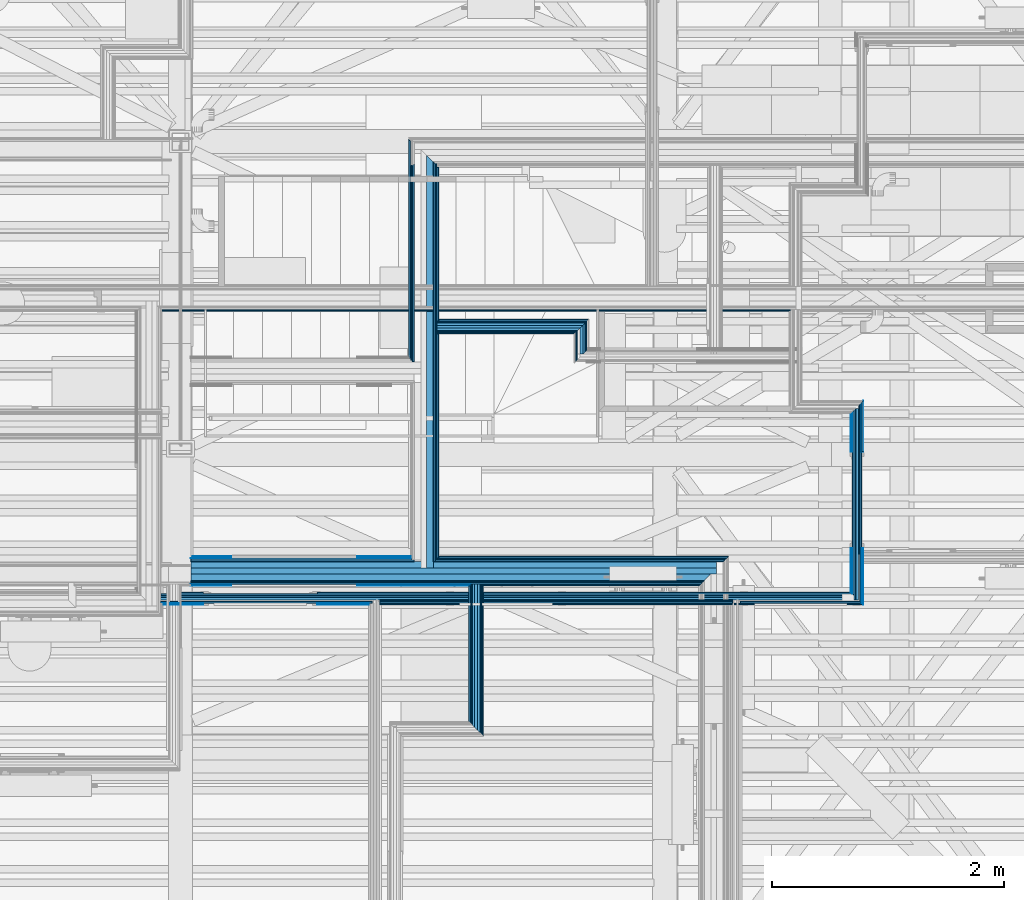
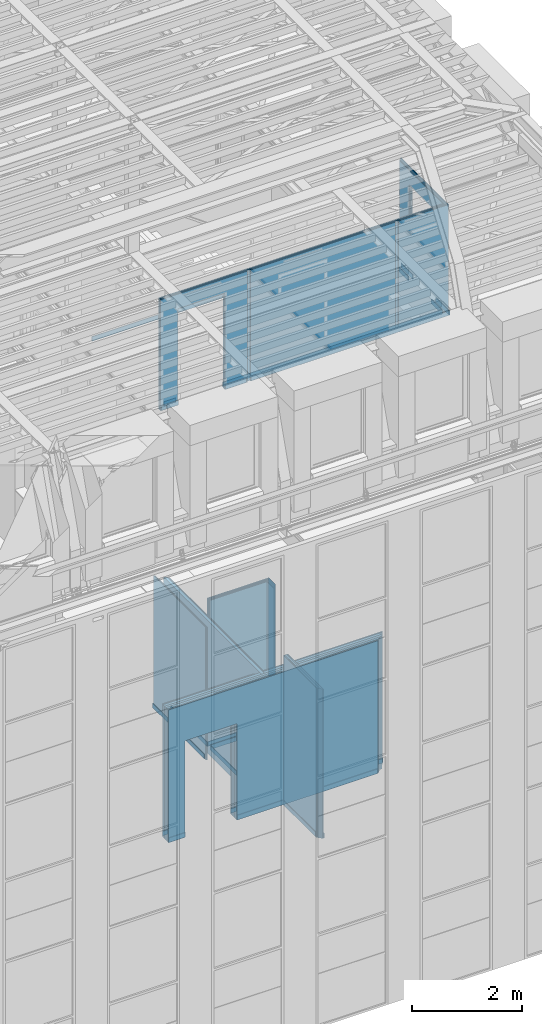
# One storey, part 53 of 183: 62 building element parts, 4 openings, 8 elements without a shape of their own.
"""IFC2X3 building model written with IfcOpenShell, lengths in metres."""

from ifc_helpers import new_model, entity, si_unit, converted_unit, derived_unit, money_unit, direction, frame, frame_2d, origin_with_axes, place, context, subcontext, project, spatial, polyline, rectangle, outline, extrude, material, type_object, element, aggregate, save


model = new_model("IFC2X3")

# Units and contexts
model_context = context("Model", 3, precision=1e-05, world=origin_with_axes(), true_north=direction((0.0, 1.0)))
body_context = subcontext(model_context, "Body", "Model", "MODEL_VIEW", scale=1.0)
ifc_project = project(units=[si_unit("LENGTHUNIT", "METRE"), si_unit("AREAUNIT", "SQUARE_METRE"), si_unit("VOLUMEUNIT", "CUBIC_METRE"), si_unit("ABSORBEDDOSEUNIT", "GRAY"), si_unit("AMOUNTOFSUBSTANCEUNIT", "MOLE"), si_unit("DOSEEQUIVALENTUNIT", "SIEVERT"), si_unit("ELECTRICCAPACITANCEUNIT", "FARAD"), si_unit("ELECTRICCHARGEUNIT", "COULOMB"), si_unit("ELECTRICCONDUCTANCEUNIT", "SIEMENS"), si_unit("ELECTRICCURRENTUNIT", "AMPERE"), si_unit("ELECTRICRESISTANCEUNIT", "OHM"), si_unit("ELECTRICVOLTAGEUNIT", "VOLT"), si_unit("ENERGYUNIT", "JOULE"), si_unit("FORCEUNIT", "NEWTON"), si_unit("FREQUENCYUNIT", "HERTZ"), si_unit("ILLUMINANCEUNIT", "LUX"), si_unit("INDUCTANCEUNIT", "HENRY"), si_unit("LUMINOUSFLUXUNIT", "LUMEN"), si_unit("LUMINOUSINTENSITYUNIT", "CANDELA"), si_unit("MAGNETICFLUXDENSITYUNIT", "TESLA"), si_unit("MAGNETICFLUXUNIT", "WEBER"), si_unit("MASSUNIT", "GRAM"), converted_unit("PLANEANGLEUNIT", "degree", entity("IfcReal", 0.0174532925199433), si_unit("PLANEANGLEUNIT", "RADIAN"), dimensions=[0, 0, 0, 0, 0, 0, 0]), si_unit("POWERUNIT", "WATT"), si_unit("PRESSUREUNIT", "PASCAL"), si_unit("RADIOACTIVITYUNIT", "BECQUEREL"), si_unit("SOLIDANGLEUNIT", "STERADIAN"), si_unit("THERMODYNAMICTEMPERATUREUNIT", "KELVIN"), si_unit("TIMEUNIT", "SECOND"), derived_unit("ACCELERATIONUNIT", [(si_unit("LENGTHUNIT", "METRE"), 1), (si_unit("TIMEUNIT", "SECOND"), -2)]), derived_unit("ANGULARVELOCITYUNIT", [(converted_unit("PLANEANGLEUNIT", "degree", entity("IfcReal", 0.0174532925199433), si_unit("PLANEANGLEUNIT", "RADIAN"), dimensions=[0, 0, 0, 0, 0, 0, 0]), 1), (si_unit("TIMEUNIT", "SECOND"), -1)]), derived_unit("CURVATUREUNIT", [(converted_unit("PLANEANGLEUNIT", "degree", entity("IfcReal", 0.0174532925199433), si_unit("PLANEANGLEUNIT", "RADIAN"), dimensions=[0, 0, 0, 0, 0, 0, 0]), 1), (si_unit("LENGTHUNIT", "METRE"), -1)]), derived_unit("DYNAMICVISCOSITYUNIT", [(si_unit("PRESSUREUNIT", "PASCAL"), 1), (si_unit("TIMEUNIT", "SECOND"), 1)]), derived_unit("HEATFLUXDENSITYUNIT", [(si_unit("POWERUNIT", "WATT"), 1), (si_unit("LENGTHUNIT", "METRE"), -2)]), derived_unit("HEATINGVALUEUNIT", [(si_unit("ENERGYUNIT", "JOULE"), 1), (si_unit("MASSUNIT", "GRAM"), -1)]), derived_unit("INTEGERCOUNTRATEUNIT", [(si_unit("TIMEUNIT", "SECOND"), -1)]), derived_unit("IONCONCENTRATIONUNIT", [(si_unit("MASSUNIT", "GRAM"), 1), (si_unit("VOLUMEUNIT", "CUBIC_METRE"), -1)]), derived_unit("ISOTHERMALMOISTURECAPACITYUNIT", [(si_unit("VOLUMEUNIT", "CUBIC_METRE"), 1), (si_unit("MASSUNIT", "GRAM"), -1)]), derived_unit("KINEMATICVISCOSITYUNIT", [(si_unit("AREAUNIT", "SQUARE_METRE"), 1), (si_unit("TIMEUNIT", "SECOND"), -1)]), derived_unit("LINEARFORCEUNIT", [(si_unit("FORCEUNIT", "NEWTON"), 1), (si_unit("LENGTHUNIT", "METRE"), -1)]), derived_unit("LINEARMOMENTUNIT", [(si_unit("FORCEUNIT", "NEWTON"), 1), (si_unit("LENGTHUNIT", "METRE"), -1)]), derived_unit("LINEARSTIFFNESSUNIT", [(si_unit("FORCEUNIT", "NEWTON"), 1), (si_unit("LENGTHUNIT", "METRE"), -1)]), derived_unit("LINEARVELOCITYUNIT", [(si_unit("LENGTHUNIT", "METRE"), 1), (si_unit("TIMEUNIT", "SECOND"), -1)]), derived_unit("LUMINOUSINTENSITYDISTRIBUTIONUNIT", [(si_unit("LUMINOUSINTENSITYUNIT", "CANDELA"), 1), (si_unit("LUMINOUSFLUXUNIT", "LUMEN"), -1)]), derived_unit("MASSDENSITYUNIT", [(si_unit("MASSUNIT", "GRAM"), 1), (si_unit("VOLUMEUNIT", "CUBIC_METRE"), -1)]), derived_unit("MASSFLOWRATEUNIT", [(si_unit("MASSUNIT", "GRAM"), 1), (si_unit("TIMEUNIT", "SECOND"), -1)]), derived_unit("MASSPERLENGTHUNIT", [(si_unit("MASSUNIT", "GRAM"), 1), (si_unit("LENGTHUNIT", "METRE"), -1)]), derived_unit("MODULUSOFELASTICITYUNIT", [(si_unit("FORCEUNIT", "NEWTON"), 1), (si_unit("AREAUNIT", "SQUARE_METRE"), -1)]), derived_unit("MODULUSOFLINEARSUBGRADEREACTIONUNIT", [(si_unit("FORCEUNIT", "NEWTON"), 1), (si_unit("LENGTHUNIT", "METRE"), -2)]), derived_unit("MODULUSOFROTATIONALSUBGRADEREACTIONUNIT", [(si_unit("FORCEUNIT", "NEWTON"), 1), (si_unit("LENGTHUNIT", "METRE"), 1)]), derived_unit("MODULUSOFSUBGRADEREACTIONUNIT", [(si_unit("FORCEUNIT", "NEWTON"), 1), (si_unit("VOLUMEUNIT", "CUBIC_METRE"), -1)]), derived_unit("MOISTUREDIFFUSIVITYUNIT", [(si_unit("VOLUMEUNIT", "CUBIC_METRE"), 1), (si_unit("TIMEUNIT", "SECOND"), -1)]), derived_unit("MOLECULARWEIGHTUNIT", [(si_unit("MASSUNIT", "GRAM"), 1), (si_unit("AMOUNTOFSUBSTANCEUNIT", "MOLE"), -1)]), derived_unit("PLANARFORCEUNIT", [(si_unit("FORCEUNIT", "NEWTON"), 1), (si_unit("LENGTHUNIT", "METRE"), -2)]), derived_unit("ROTATIONALFREQUENCYUNIT", [(si_unit("TIMEUNIT", "SECOND"), -1)]), derived_unit("ROTATIONALMASSUNIT", [(si_unit("MASSUNIT", "GRAM"), 1), (si_unit("LENGTHUNIT", "METRE"), 2)]), derived_unit("ROTATIONALSTIFFNESSUNIT", [(si_unit("FORCEUNIT", "NEWTON"), 1), (si_unit("LENGTHUNIT", "METRE"), 1), (converted_unit("PLANEANGLEUNIT", "degree", entity("IfcReal", 0.0174532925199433), si_unit("PLANEANGLEUNIT", "RADIAN"), dimensions=[0, 0, 0, 0, 0, 0, 0]), -1)]), derived_unit("SECTIONAREAINTEGRALUNIT", [(si_unit("LENGTHUNIT", "METRE"), 5)]), derived_unit("SECTIONMODULUSUNIT", [(si_unit("LENGTHUNIT", "METRE"), 3)]), derived_unit("SHEARMODULUSUNIT", [(si_unit("FORCEUNIT", "NEWTON"), 1), (si_unit("AREAUNIT", "SQUARE_METRE"), -1)]), derived_unit("SOUNDPOWERUNIT", [(si_unit("ENERGYUNIT", "JOULE"), 1), (si_unit("TIMEUNIT", "SECOND"), -1)]), derived_unit("SPECIFICHEATCAPACITYUNIT", [(si_unit("FORCEUNIT", "NEWTON"), 1), (si_unit("MASSUNIT", "GRAM"), -1), (si_unit("THERMODYNAMICTEMPERATUREUNIT", "KELVIN"), -1)]), derived_unit("TEMPERATUREGRADIENTUNIT", [(si_unit("THERMODYNAMICTEMPERATUREUNIT", "KELVIN"), 1), (si_unit("LENGTHUNIT", "METRE"), -1)]), derived_unit("THERMALADMITTANCEUNIT", [(si_unit("POWERUNIT", "WATT"), 1), (si_unit("AREAUNIT", "SQUARE_METRE"), -1), (si_unit("THERMODYNAMICTEMPERATUREUNIT", "KELVIN"), -1)]), derived_unit("THERMALCONDUCTANCEUNIT", [(si_unit("POWERUNIT", "WATT"), 1), (si_unit("LENGTHUNIT", "METRE"), -1), (si_unit("THERMODYNAMICTEMPERATUREUNIT", "KELVIN"), -1)]), derived_unit("THERMALEXPANSIONCOEFFICIENTUNIT", [(si_unit("THERMODYNAMICTEMPERATUREUNIT", "KELVIN"), -1)]), derived_unit("THERMALRESISTANCEUNIT", [(si_unit("AREAUNIT", "SQUARE_METRE"), 1), (si_unit("POWERUNIT", "WATT"), -1)]), derived_unit("THERMALTRANSMITTANCEUNIT", [(si_unit("POWERUNIT", "WATT"), 1), (si_unit("AREAUNIT", "SQUARE_METRE"), -1), (si_unit("THERMODYNAMICTEMPERATUREUNIT", "KELVIN"), -1)]), derived_unit("TORQUEUNIT", [(si_unit("FORCEUNIT", "NEWTON"), 1), (si_unit("LENGTHUNIT", "METRE"), 1)]), derived_unit("VAPORPERMEABILITYUNIT", [(si_unit("MASSUNIT", "GRAM"), 1), (si_unit("TIMEUNIT", "SECOND"), -1)]), derived_unit("VOLUMETRICFLOWRATEUNIT", [(si_unit("VOLUMEUNIT", "CUBIC_METRE"), 1), (si_unit("TIMEUNIT", "SECOND"), -1)]), derived_unit("WARPINGCONSTANTUNIT", [(si_unit("LENGTHUNIT", "METRE"), 6)]), derived_unit("WARPINGMOMENTUNIT", [(si_unit("FORCEUNIT", "NEWTON"), 1), (si_unit("LENGTHUNIT", "METRE"), 2)]), money_unit("GBP")], contexts=[model_context])

# Site, building, storey
site_placement = place(None, origin_with_axes())
site = spatial("IfcSite", under=ifc_project, at=site_placement, Name="Site", CompositionType="ELEMENT")
building_placement = place(site_placement, origin_with_axes())
building = spatial("IfcBuilding", under=site, at=building_placement, Name="Building01", CompositionType="ELEMENT")
storey_placement = place(building_placement, frame((0.0, 0.0, 5.15), z_axis=(0.0, 0.0, 1.0), x_axis=(1.0, 0.0, 0.0)))
storey = spatial("IfcBuildingStorey", under=building, at=storey_placement, Name="1F", CompositionType="ELEMENT", Elevation=5.15)

# Wall, openings, building element parts
wall_type_1 = type_object("IfcWallType", Name="SHE_A-Walls_Type01c_Partywall_225mm_twin_tall", PredefinedType="NOTDEFINED")
wall_1_placement = place(storey_placement, frame((18.0, 5.068, 0.0), z_axis=(0.0, 0.0, 1.0), x_axis=(1.0, 0.0, 0.0)))
wall_1 = element("IfcWall", 1, at=wall_1_placement, inside=storey, type_object=wall_type_1, Name="1C", ObjectType="SHE_A-Walls_Type01c_Partywall_225mm_twin_tall")
opening_1_placement = place(wall_1_placement, frame((0.353, 0.152, -0.03), z_axis=(0.0, 0.0, 1.0), x_axis=(1.0, 0.0, 0.0)))
element("IfcOpeningElement", 2, at=opening_1_placement, cuts=wall_1, Name="Opening", ObjectType="Opening", context=body_context, shape_type="SweptSolid", body=[
    extrude(rectangle(XDim=2.142, YDim=1.084, at=frame_2d((0.542, 1.071), x_axis=(0.0, -1.0))), frame((0.0, 0.0, 0.0), z_axis=(0.0, -1.0, 0.0), x_axis=(1.0, 0.0, 0.0)), (0.0, 0.0, 1.0), 0.255),
])
opening_2_placement = place(wall_1_placement, frame((0.35, 0.152, 0.0), z_axis=(0.0, 0.0, 1.0), x_axis=(1.0, 0.0, 0.0)))
element("IfcOpeningElement", 3, at=opening_2_placement, cuts=wall_1, Name="Opening", ObjectType="Opening", context=body_context, shape_type="SweptSolid", body=[
    extrude(rectangle(XDim=2.142, YDim=1.084, at=frame_2d((0.542, 1.071), x_axis=(0.0, -1.0))), frame((0.0, 0.0, 0.0), z_axis=(0.0, -1.0, 0.0), x_axis=(1.0, 0.0, 0.0)), (0.0, 0.0, 1.0), 0.255),
])
ifc_material_1 = material(Name="A_BSUK_Walls_Timber")
placement_1 = place(wall_1_placement, origin_with_axes())
building_element_part_1 = element("IfcBuildingElementPart", 4, at=placement_1, material=ifc_material_1, Name="1", context=body_context, shape_type="SweptSolid", body=[
    extrude(rectangle(XDim=2.415, YDim=0.015, at=frame_2d((1.2075, -0.0955), x_axis=(-1.0, 0.0))), frame((0.0, 0.0, 0.015), z_axis=(0.0, 0.0, 1.0), x_axis=(1.0, 0.0, 0.0)), (0.0, 0.0, 1.0), 0.1),
])
building_element_part_2 = element("IfcBuildingElementPart", 5, at=placement_1, material=ifc_material_1, Name="2", context=body_context, shape_type="SweptSolid", body=[
    extrude(outline(polyline([(4.4, -0.088), (2.51, -0.088), (2.51, -0.103), (4.385, -0.103), (4.4, -0.088)])), frame((0.0, 0.0, 0.015), z_axis=(0.0, 0.0, 1.0), x_axis=(1.0, 0.0, 0.0)), (0.0, 0.0, 1.0), 0.1),
])
ifc_material_2 = material(Name="A_BSUK_WallInternal_Finishes_Plasterboard")
building_element_part_3 = element("IfcBuildingElementPart", 6, at=placement_1, material=ifc_material_2, Name="3", context=body_context, shape_type="SweptSolid", body=[
    extrude(outline(polyline([(4.415, -0.073), (0.0, -0.073), (0.0, -0.088), (4.4, -0.088), (4.415, -0.073)])), origin_with_axes(), (0.0, 0.0, 1.0), 2.95),
])
building_element_part_4 = element("IfcBuildingElementPart", 7, at=placement_1, material=ifc_material_2, Name="4", context=body_context, shape_type="SweptSolid", body=[
    extrude(outline(polyline([(4.415, -0.073), (0.0, -0.073), (0.0, -0.088), (4.4, -0.088), (4.415, -0.073)])), origin_with_axes(), (0.0, 0.0, 1.0), 2.95),
])
building_element_part_5 = element("IfcBuildingElementPart", 8, at=placement_1, material=ifc_material_2, Name="5", context=body_context, shape_type="SweptSolid", body=[
    extrude(outline(polyline([(4.43, -0.058), (0.0, -0.058), (0.0, -0.073), (4.415, -0.073), (4.43, -0.058)])), origin_with_axes(), (0.0, 0.0, 1.0), 2.95),
])
ifc_material_3 = material(Name="Air Cavity")
building_element_part_6 = element("IfcBuildingElementPart", 9, at=placement_1, material=ifc_material_3, Name="6", context=body_context, shape_type="SweptSolid", body=[
    extrude(outline(polyline([(4.488, 0.0), (0.0, 0.0), (0.0, -0.058), (4.43, -0.058), (4.488, 0.0)])), origin_with_axes(), (0.0, 0.0, 1.0), 2.95),
])
ifc_material_4 = material(Name="A_BSUK_Insulation")
building_element_part_7 = element("IfcBuildingElementPart", 10, at=placement_1, material=ifc_material_4, Name="7", context=body_context, shape_type="SweptSolid", body=[
    extrude(rectangle(XDim=4.538, YDim=0.05, at=frame_2d((2.269, 0.025), x_axis=(-1.0, 0.0))), origin_with_axes(), (0.0, 0.0, 1.0), 2.95),
])
building_element_part_8 = element("IfcBuildingElementPart", 11, at=placement_1, material=ifc_material_3, Name="8", context=body_context, shape_type="SweptSolid", body=[
    extrude(rectangle(XDim=4.538, YDim=0.057, at=frame_2d((2.269, 0.0785), x_axis=(-1.0, 0.0))), origin_with_axes(), (0.0, 0.0, 1.0), 2.95),
])
building_element_part_9 = element("IfcBuildingElementPart", 12, at=placement_1, material=ifc_material_2, Name="9", context=body_context, shape_type="SweptSolid", body=[
    extrude(rectangle(XDim=1.927661, YDim=0.015, at=frame_2d((0.963831, 0.1145), x_axis=(-1.0, 0.0))), origin_with_axes(), (0.0, 0.0, 1.0), 2.95),
])
building_element_part_10 = element("IfcBuildingElementPart", 13, at=placement_1, material=ifc_material_2, Name="10", context=body_context, shape_type="SweptSolid", body=[
    extrude(outline(polyline([(4.61, 0.122), (2.107661, 0.122), (2.107661, 0.107), (4.595, 0.107), (4.61, 0.122)])), origin_with_axes(), (0.0, 0.0, 1.0), 2.95),
])
building_element_part_11 = element("IfcBuildingElementPart", 14, at=placement_1, material=ifc_material_2, Name="11", context=body_context, shape_type="SweptSolid", body=[
    extrude(rectangle(XDim=1.912661, YDim=0.015, at=frame_2d((0.956331, 0.1295), x_axis=(-1.0, 0.0))), origin_with_axes(), (0.0, 0.0, 1.0), 2.95),
])
building_element_part_12 = element("IfcBuildingElementPart", 15, at=placement_1, material=ifc_material_2, Name="12", context=body_context, shape_type="SweptSolid", body=[
    extrude(outline(polyline([(4.625, 0.137), (2.107661, 0.137), (2.107661, 0.122), (4.61, 0.122), (4.625, 0.137)])), origin_with_axes(), (0.0, 0.0, 1.0), 2.95),
])
building_element_part_13 = element("IfcBuildingElementPart", 16, at=placement_1, material=ifc_material_1, Name="13", context=body_context, shape_type="SweptSolid", body=[
    extrude(outline(polyline([(1.897661, 0.152), (0.015, 0.152), (0.0, 0.137), (1.897661, 0.137), (1.897661, 0.152)])), frame((0.0, 0.0, 0.015), z_axis=(0.0, 0.0, 1.0), x_axis=(1.0, 0.0, 0.0)), (0.0, 0.0, 1.0), 0.1),
])
building_element_part_14 = element("IfcBuildingElementPart", 17, at=placement_1, material=ifc_material_1, Name="14", context=body_context, shape_type="SweptSolid", body=[
    extrude(outline(polyline([(4.64, 0.152), (2.137661, 0.152), (2.137661, 0.137), (4.625, 0.137), (4.64, 0.152)])), frame((0.0, 0.0, 0.015), z_axis=(0.0, 0.0, 1.0), x_axis=(1.0, 0.0, 0.0)), (0.0, 0.0, 1.0), 0.1),
])
aggregate(wall_1, [building_element_part_1, building_element_part_2, building_element_part_3, building_element_part_4, building_element_part_5, building_element_part_6, building_element_part_7, building_element_part_8, building_element_part_9, building_element_part_10, building_element_part_11, building_element_part_12, building_element_part_13, building_element_part_14])

# Wall, building element parts
wall_2_placement = place(storey_placement, frame((19.985661, 8.732, 0.0), z_axis=(0.0, 0.0, 1.0), x_axis=(0.0, -1.0, 0.0)))
wall_2 = element("IfcWall", 18, at=wall_2_placement, inside=storey, type_object=wall_type_1, Name="1C", ObjectType="SHE_A-Walls_Type01c_Partywall_225mm_twin_tall")
placement_2 = place(wall_2_placement, origin_with_axes())
building_element_part_15 = element("IfcBuildingElementPart", 19, at=placement_2, material=ifc_material_1, Name="1", context=body_context, shape_type="SweptSolid", body=[
    extrude(outline(polyline([(1.787, -0.088), (-0.073, -0.088), (-0.088, -0.103), (1.787, -0.103), (1.787, -0.088)])), frame((0.0, 0.0, 0.015), z_axis=(0.0, 0.0, 1.0), x_axis=(1.0, 0.0, 0.0)), (0.0, 0.0, 1.0), 0.1),
])
building_element_part_16 = element("IfcBuildingElementPart", 20, at=placement_2, material=ifc_material_1, Name="2", context=body_context, shape_type="SweptSolid", body=[
    extrude(outline(polyline([(1.802, -0.088), (-0.073, -0.088), (-0.088, -0.103), (1.802, -0.103), (1.802, -0.088)])), frame((0.0, 0.0, 0.015), z_axis=(0.0, 0.0, 1.0), x_axis=(1.0, 0.0, 0.0)), (0.0, 0.0, 1.0), 0.1),
])
building_element_part_17 = element("IfcBuildingElementPart", 21, at=placement_2, material=ifc_material_2, Name="3", context=body_context, shape_type="SweptSolid", body=[
    extrude(rectangle(XDim=1.89, YDim=0.015, at=frame_2d((0.872, -0.0805), x_axis=(-1.0, 0.0))), origin_with_axes(), (0.0, 0.0, 1.0), 2.95),
])
building_element_part_18 = element("IfcBuildingElementPart", 22, at=placement_2, material=ifc_material_2, Name="6", context=body_context, shape_type="SweptSolid", body=[
    extrude(rectangle(XDim=1.89, YDim=0.015, at=frame_2d((0.887, -0.0655), x_axis=(-1.0, 0.0))), origin_with_axes(), (0.0, 0.0, 1.0), 2.95),
])
building_element_part_19 = element("IfcBuildingElementPart", 23, at=placement_2, material=ifc_material_3, Name="11", context=body_context, shape_type="SweptSolid", body=[
    extrude(outline(polyline([(3.614, 0.107), (0.107, 0.107), (0.05, 0.05), (3.614, 0.05), (3.614, 0.107)])), origin_with_axes(), (0.0, 0.0, 1.0), 2.95),
])
building_element_part_20 = element("IfcBuildingElementPart", 24, at=placement_2, material=ifc_material_2, Name="12", context=body_context, shape_type="SweptSolid", body=[
    extrude(outline(polyline([(3.557, 0.122), (0.122, 0.122), (0.107, 0.107), (3.557, 0.107), (3.557, 0.122)])), origin_with_axes(), (0.0, 0.0, 1.0), 2.95),
])
building_element_part_21 = element("IfcBuildingElementPart", 25, at=placement_2, material=ifc_material_2, Name="13", context=body_context, shape_type="SweptSolid", body=[
    extrude(rectangle(XDim=3.405, YDim=0.015, at=frame_2d((1.8245, 0.1295), x_axis=(-1.0, 0.0))), origin_with_axes(), (0.0, 0.0, 1.0), 2.95),
])
building_element_part_22 = element("IfcBuildingElementPart", 26, at=placement_2, material=ifc_material_1, Name="14", context=body_context, shape_type="SweptSolid", body=[
    extrude(rectangle(XDim=1.33, YDim=0.015, at=frame_2d((0.817, 0.1445), x_axis=(-1.0, 0.0))), frame((0.0, 0.0, 0.015), z_axis=(0.0, 0.0, 1.0), x_axis=(1.0, 0.0, 0.0)), (0.0, 0.0, 1.0), 0.1),
])
building_element_part_23 = element("IfcBuildingElementPart", 27, at=placement_2, material=ifc_material_1, Name="15", context=body_context, shape_type="SweptSolid", body=[
    extrude(rectangle(XDim=1.935, YDim=0.015, at=frame_2d((2.5595, 0.1445), x_axis=(-1.0, 0.0))), frame((0.0, 0.0, 0.015), z_axis=(0.0, 0.0, 1.0), x_axis=(1.0, 0.0, 0.0)), (0.0, 0.0, 1.0), 0.1),
])
aggregate(wall_2, [building_element_part_15, building_element_part_16, building_element_part_17, building_element_part_18, building_element_part_19, building_element_part_20, building_element_part_21, building_element_part_22, building_element_part_23])

wall_type_2 = type_object("IfcWallType", Name="SHE_A-Walls_Type05a_Partition_95mm_tall", PredefinedType="NOTDEFINED")
wall_3_placement = place(storey_placement, frame((21.382661, 6.965, 0.0), z_axis=(0.0, 0.0, 1.0), x_axis=(0.0, 1.0, 0.0)))
wall_3 = element("IfcWall", 28, at=wall_3_placement, inside=storey, type_object=wall_type_2, Name="5A", ObjectType="SHE_A-Walls_Type05a_Partition_95mm_tall")
placement_3 = place(wall_3_placement, origin_with_axes())
building_element_part_24 = element("IfcBuildingElementPart", 29, at=placement_3, material=ifc_material_2, Name="2", context=body_context, shape_type="SweptSolid", body=[
    extrude(outline(polyline([(0.273, -0.023), (0.023, -0.023), (0.035, -0.035), (0.285, -0.035), (0.273, -0.023)])), origin_with_axes(), (0.0, 0.0, 1.0), 3.32),
])
building_element_part_25 = element("IfcBuildingElementPart", 30, at=placement_3, material=ifc_material_3, Name="3", context=body_context, shape_type="SweptSolid", body=[
    extrude(outline(polyline([(0.25, 0.0), (0.0, 0.0), (0.023, -0.023), (0.273, -0.023), (0.25, 0.0)])), origin_with_axes(), (0.0, 0.0, 1.0), 3.32),
])
building_element_part_26 = element("IfcBuildingElementPart", 31, at=placement_3, material=ifc_material_4, Name="4", context=body_context, shape_type="SweptSolid", body=[
    extrude(outline(polyline([(0.225, 0.025), (0.0, 0.025), (0.0, 0.0), (0.25, 0.0), (0.225, 0.025)])), origin_with_axes(), (0.0, 0.0, 1.0), 3.32),
])
building_element_part_27 = element("IfcBuildingElementPart", 32, at=placement_3, material=ifc_material_2, Name="6", context=body_context, shape_type="SweptSolid", body=[
    extrude(outline(polyline([(0.19, 0.06), (-0.06, 0.06), (-0.048, 0.048), (0.202, 0.048), (0.19, 0.06)])), origin_with_axes(), (0.0, 0.0, 1.0), 3.32),
])
aggregate(wall_3, [building_element_part_24, building_element_part_25, building_element_part_26, building_element_part_27])

wall_4_placement = place(storey_placement, frame((21.382661, 7.215, 0.0), z_axis=(0.0, 0.0, 1.0), x_axis=(-1.0, 0.0, 0.0)))
wall_4 = element("IfcWall", 33, at=wall_4_placement, inside=storey, type_object=wall_type_2, Name="5A", ObjectType="SHE_A-Walls_Type05a_Partition_95mm_tall")
placement_4 = place(wall_4_placement, origin_with_axes())
building_element_part_28 = element("IfcBuildingElementPart", 34, at=placement_4, material=ifc_material_1, Name="1", context=body_context, shape_type="SweptSolid", body=[
    extrude(outline(polyline([(1.245, -0.035), (-0.035, -0.035), (-0.05, -0.05), (1.245, -0.05), (1.245, -0.035)])), frame((0.0, 0.0, 0.015), z_axis=(0.0, 0.0, 1.0), x_axis=(1.0, 0.0, 0.0)), (0.0, 0.0, 1.0), 0.1),
])
building_element_part_29 = element("IfcBuildingElementPart", 35, at=placement_4, material=ifc_material_2, Name="2", context=body_context, shape_type="SweptSolid", body=[
    extrude(outline(polyline([(1.26, -0.023), (-0.023, -0.023), (-0.035, -0.035), (1.26, -0.035), (1.26, -0.023)])), origin_with_axes(), (0.0, 0.0, 1.0), 3.32),
])
building_element_part_30 = element("IfcBuildingElementPart", 36, at=placement_4, material=ifc_material_3, Name="3", context=body_context, shape_type="SweptSolid", body=[
    extrude(outline(polyline([(1.26, 0.0), (0.0, 0.0), (-0.023, -0.023), (1.26, -0.023), (1.26, 0.0)])), origin_with_axes(), (0.0, 0.0, 1.0), 3.32),
])
building_element_part_31 = element("IfcBuildingElementPart", 37, at=placement_4, material=ifc_material_4, Name="4", context=body_context, shape_type="SweptSolid", body=[
    extrude(outline(polyline([(1.26, 0.025), (0.025, 0.025), (0.0, 0.0), (1.26, 0.0), (1.26, 0.025)])), origin_with_axes(), (0.0, 0.0, 1.0), 3.32),
])
building_element_part_32 = element("IfcBuildingElementPart", 38, at=placement_4, material=ifc_material_3, Name="5", context=body_context, shape_type="SweptSolid", body=[
    extrude(outline(polyline([(1.26, 0.048), (0.048, 0.048), (0.025, 0.025), (1.26, 0.025), (1.26, 0.048)])), origin_with_axes(), (0.0, 0.0, 1.0), 3.32),
])
building_element_part_33 = element("IfcBuildingElementPart", 39, at=placement_4, material=ifc_material_2, Name="6", context=body_context, shape_type="SweptSolid", body=[
    extrude(outline(polyline([(1.26, 0.06), (0.06, 0.06), (0.048, 0.048), (1.26, 0.048), (1.26, 0.06)])), origin_with_axes(), (0.0, 0.0, 1.0), 3.32),
])
building_element_part_34 = element("IfcBuildingElementPart", 40, at=placement_4, material=ifc_material_1, Name="7", context=body_context, shape_type="SweptSolid", body=[
    extrude(outline(polyline([(1.26, 0.075), (0.075, 0.075), (0.06, 0.06), (1.26, 0.06), (1.26, 0.075)])), frame((0.0, 0.0, 0.015), z_axis=(0.0, 0.0, 1.0), x_axis=(1.0, 0.0, 0.0)), (0.0, 0.0, 1.0), 0.1),
])
aggregate(wall_4, [building_element_part_28, building_element_part_29, building_element_part_30, building_element_part_31, building_element_part_32, building_element_part_33, building_element_part_34])

wall_5_placement = place(storey_placement, frame((20.475, 3.72, 0.0), z_axis=(0.0, 0.0, 1.0), x_axis=(0.0, 1.0, 0.0)))
wall_5 = element("IfcWall", 41, at=wall_5_placement, inside=storey, type_object=wall_type_2, Name="5A", ObjectType="SHE_A-Walls_Type05a_Partition_95mm_tall")
placement_5 = place(wall_5_placement, origin_with_axes())
building_element_part_35 = element("IfcBuildingElementPart", 42, at=placement_5, material=ifc_material_1, Name="1", context=body_context, shape_type="SweptSolid", body=[
    extrude(outline(polyline([(1.245, -0.035), (-0.035, -0.035), (-0.05, -0.05), (1.245, -0.05), (1.245, -0.035)])), frame((0.0, 0.0, 0.015), z_axis=(0.0, 0.0, 1.0), x_axis=(1.0, 0.0, 0.0)), (0.0, 0.0, 1.0), 0.1),
])
building_element_part_36 = element("IfcBuildingElementPart", 43, at=placement_5, material=ifc_material_2, Name="2", context=body_context, shape_type="SweptSolid", body=[
    extrude(outline(polyline([(1.26, -0.023), (-0.023, -0.023), (-0.035, -0.035), (1.26, -0.035), (1.26, -0.023)])), origin_with_axes(), (0.0, 0.0, 1.0), 3.32),
])
building_element_part_37 = element("IfcBuildingElementPart", 44, at=placement_5, material=ifc_material_3, Name="3", context=body_context, shape_type="SweptSolid", body=[
    extrude(outline(polyline([(1.26, 0.0), (0.0, 0.0), (-0.023, -0.023), (1.26, -0.023), (1.26, 0.0)])), origin_with_axes(), (0.0, 0.0, 1.0), 3.32),
])
building_element_part_38 = element("IfcBuildingElementPart", 45, at=placement_5, material=ifc_material_4, Name="4", context=body_context, shape_type="SweptSolid", body=[
    extrude(outline(polyline([(1.26, 0.025), (0.025, 0.025), (0.0, 0.0), (1.26, 0.0), (1.26, 0.025)])), origin_with_axes(), (0.0, 0.0, 1.0), 3.32),
])
building_element_part_39 = element("IfcBuildingElementPart", 46, at=placement_5, material=ifc_material_3, Name="5", context=body_context, shape_type="SweptSolid", body=[
    extrude(outline(polyline([(1.26, 0.048), (0.048, 0.048), (0.025, 0.025), (1.26, 0.025), (1.26, 0.048)])), origin_with_axes(), (0.0, 0.0, 1.0), 3.32),
])
building_element_part_40 = element("IfcBuildingElementPart", 47, at=placement_5, material=ifc_material_2, Name="6", context=body_context, shape_type="SweptSolid", body=[
    extrude(outline(polyline([(1.26, 0.06), (0.06, 0.06), (0.048, 0.048), (1.26, 0.048), (1.26, 0.06)])), origin_with_axes(), (0.0, 0.0, 1.0), 3.32),
])
building_element_part_41 = element("IfcBuildingElementPart", 48, at=placement_5, material=ifc_material_1, Name="7", context=body_context, shape_type="SweptSolid", body=[
    extrude(outline(polyline([(1.245, 0.075), (0.075, 0.075), (0.06, 0.06), (1.245, 0.06), (1.245, 0.075)])), frame((0.0, 0.0, 0.015), z_axis=(0.0, 0.0, 1.0), x_axis=(1.0, 0.0, 0.0)), (0.0, 0.0, 1.0), 0.1),
])
aggregate(wall_5, [building_element_part_35, building_element_part_36, building_element_part_37, building_element_part_38, building_element_part_39, building_element_part_40, building_element_part_41])

# Wall, building element part
wall_type_3 = type_object("IfcWallType", Name="SHE_A-Walls_Type01d_Partywall_200mm_twin", PredefinedType="NOTDEFINED")
wall_6_placement = place(storey_placement, frame((26.380061, 7.474915, 9.78), z_axis=(0.0, 0.0, 1.0), x_axis=(-1.0, 0.0, 0.0)))
wall_6 = element("IfcWall", 49, at=wall_6_placement, inside=storey, type_object=wall_type_3, Name="1D", ObjectType="SHE_A-Walls_Type01d_Partywall_200mm_twin")
building_element_part_42_placement = place(wall_6_placement, origin_with_axes())
building_element_part_42 = element("IfcBuildingElementPart", 50, at=building_element_part_42_placement, material=ifc_material_1, Name="16", context=body_context, shape_type="SweptSolid", body=[
    extrude(rectangle(XDim=5.425382, YDim=0.015, at=frame_2d((5.91393, 0.1325), x_axis=(-1.0, 0.0))), frame((0.0, 0.0, 0.015), z_axis=(0.0, 0.0, 1.0), x_axis=(1.0, 0.0, 0.0)), (0.0, 0.0, 1.0), 0.1),
])
aggregate(wall_6, [building_element_part_42])

# Wall, opening, building element parts
wall_type_4 = type_object("IfcWallType", Name="SHE_A-Walls_Type05b_Partition_80mm", PredefinedType="NOTDEFINED")
wall_7_placement = place(storey_placement, frame((23.763, 4.844, 9.78), z_axis=(0.0, 0.0, 1.0), x_axis=(0.0, 1.0, 0.0)))
wall_7 = element("IfcWall", 51, at=wall_7_placement, inside=storey, type_object=wall_type_4, Name="5B", ObjectType="SHE_A-Walls_Type05b_Partition_80mm")
opening_3_placement = place(wall_7_placement, frame((0.444939, 0.068, 0.0), z_axis=(0.0, 0.0, 1.0), x_axis=(1.0, 0.0, 0.0)))
element("IfcOpeningElement", 52, at=opening_3_placement, cuts=wall_7, Name="Opening", ObjectType="Opening", context=body_context, shape_type="SweptSolid", body=[
    extrude(rectangle(XDim=2.142, YDim=0.834, at=frame_2d((0.417, 1.071), x_axis=(0.0, -1.0))), frame((0.0, 0.0, 0.0), z_axis=(0.0, -1.0, 0.0), x_axis=(1.0, 0.0, 0.0)), (0.0, 0.0, 1.0), 0.11),
])
placement_6 = place(wall_7_placement, origin_with_axes())
building_element_part_43 = element("IfcBuildingElementPart", 53, at=placement_6, material=ifc_material_1, Name="1", context=body_context, shape_type="SweptSolid", body=[
    extrude(outline(polyline([(1.706085, -0.027), (-0.027, -0.027), (-0.042, -0.042), (1.721085, -0.042), (1.706085, -0.027)])), frame((0.0, 0.0, 0.015), z_axis=(0.0, 0.0, 1.0), x_axis=(1.0, 0.0, 0.0)), (0.0, 0.0, 1.0), 0.1),
])
building_element_part_44 = element("IfcBuildingElementPart", 54, at=placement_6, material=ifc_material_1, Name="2", context=body_context, shape_type="SweptSolid", body=[
    extrude(outline(polyline([(1.706085, -0.027), (0.451294, -0.027), (0.451294, -0.042), (1.721085, -0.042), (1.706085, -0.027)])), frame((0.0, 0.0, 0.015), z_axis=(0.0, 0.0, 1.0), x_axis=(1.0, 0.0, 0.0)), (0.0, 0.0, 1.0), 0.1),
])
building_element_part_45 = element("IfcBuildingElementPart", 55, at=placement_6, material=ifc_material_2, Name="3", context=body_context, shape_type="SweptSolid", body=[
    extrude(outline(polyline([(1.691085, -0.012), (-0.012, -0.012), (-0.027, -0.027), (1.706085, -0.027), (1.691085, -0.012)])), origin_with_axes(), (0.0, 0.0, 1.0), 2.468),
])
building_element_part_46 = element("IfcBuildingElementPart", 56, at=placement_6, material=ifc_material_2, Name="4", context=body_context, shape_type="SweptSolid", body=[
    extrude(outline(polyline([(1.691085, -0.012), (0.395915, -0.012), (0.395915, -0.027), (1.706085, -0.027), (1.691085, -0.012)])), origin_with_axes(), (0.0, 0.0, 1.0), 2.468),
])
building_element_part_47 = element("IfcBuildingElementPart", 57, at=placement_6, material=ifc_material_3, Name="5", context=body_context, shape_type="SweptSolid", body=[
    extrude(outline(polyline([(1.679085, 0.0), (0.395915, 0.0), (0.395915, -0.012), (1.691085, -0.012), (1.679085, 0.0)])), origin_with_axes(), (0.0, 0.0, 1.0), 2.468),
])
building_element_part_48 = element("IfcBuildingElementPart", 58, at=placement_6, material=ifc_material_4, Name="6", context=body_context, shape_type="SweptSolid", body=[
    extrude(rectangle(XDim=1.654085, YDim=0.025, at=frame_2d((0.827042, 0.0125), x_axis=(-1.0, 0.0))), origin_with_axes(), (0.0, 0.0, 1.0), 2.468),
])
building_element_part_49 = element("IfcBuildingElementPart", 59, at=placement_6, material=ifc_material_3, Name="7", context=body_context, shape_type="SweptSolid", body=[
    extrude(rectangle(XDim=1.654085, YDim=0.013, at=frame_2d((0.827042, 0.0315), x_axis=(-1.0, 0.0))), origin_with_axes(), (0.0, 0.0, 1.0), 2.468),
])
building_element_part_50 = element("IfcBuildingElementPart", 60, at=placement_6, material=ifc_material_2, Name="8", context=body_context, shape_type="SweptSolid", body=[
    extrude(outline(polyline([(1.626085, 0.053), (0.053, 0.053), (0.038, 0.038), (1.641085, 0.038), (1.626085, 0.053)])), origin_with_axes(), (0.0, 0.0, 1.0), 2.468),
])
building_element_part_51 = element("IfcBuildingElementPart", 61, at=placement_6, material=ifc_material_1, Name="9", context=body_context, shape_type="SweptSolid", body=[
    extrude(outline(polyline([(1.611085, 0.068), (0.068, 0.068), (0.053, 0.053), (1.626085, 0.053), (1.611085, 0.068)])), frame((0.0, 0.0, 0.015), z_axis=(0.0, 0.0, 1.0), x_axis=(1.0, 0.0, 0.0)), (0.0, 0.0, 1.0), 0.1),
])
aggregate(wall_7, [building_element_part_43, building_element_part_44, building_element_part_45, building_element_part_46, building_element_part_47, building_element_part_48, building_element_part_49, building_element_part_50, building_element_part_51])

wall_8_placement = place(storey_placement, frame((17.73844, 4.844, 9.78), z_axis=(0.0, 0.0, 1.0), x_axis=(1.0, 0.0, 0.0)))
wall_8 = element("IfcWall", 62, at=wall_8_placement, inside=storey, type_object=wall_type_4, Name="5B", ObjectType="SHE_A-Walls_Type05b_Partition_80mm")
opening_4_placement = place(wall_8_placement, frame((0.369536, 0.068, 0.0), z_axis=(0.0, 0.0, 1.0), x_axis=(1.0, 0.0, 0.0)))
element("IfcOpeningElement", 63, at=opening_4_placement, cuts=wall_8, Name="Opening", ObjectType="Opening", context=body_context, shape_type="SweptSolid", body=[
    extrude(rectangle(XDim=0.984, YDim=2.142, at=frame_2d((0.492, 1.071), x_axis=(-1.0, 0.0))), frame((0.0, 0.0, 0.0), z_axis=(0.0, -1.0, 0.0), x_axis=(1.0, 0.0, 0.0)), (0.0, 0.0, 1.0), 0.11),
])
placement_7 = place(wall_8_placement, origin_with_axes())
building_element_part_52 = element("IfcBuildingElementPart", 64, at=placement_7, material=ifc_material_1, Name="1", context=body_context, shape_type="SweptSolid", body=[
    extrude(rectangle(XDim=1.675484, YDim=0.015, at=frame_2d((0.958794, -0.0345), x_axis=(-1.0, 0.0))), frame((0.0, 0.0, 0.015), z_axis=(0.0, 0.0, 1.0), x_axis=(1.0, 0.0, 0.0)), (0.0, 0.0, 1.0), 0.1),
])
building_element_part_53 = element("IfcBuildingElementPart", 65, at=placement_7, material=ifc_material_1, Name="2", context=body_context, shape_type="SweptSolid", body=[
    extrude(outline(polyline([(6.05156, -0.027), (1.891536, -0.027), (1.891536, -0.042), (6.06656, -0.042), (6.05156, -0.027)])), frame((0.0, 0.0, 0.015), z_axis=(0.0, 0.0, 1.0), x_axis=(1.0, 0.0, 0.0)), (0.0, 0.0, 1.0), 0.1),
])
building_element_part_54 = element("IfcBuildingElementPart", 66, at=placement_7, material=ifc_material_1, Name="3", context=body_context, shape_type="SweptSolid", body=[
    extrude(rectangle(XDim=1.781536, YDim=0.015, at=frame_2d((0.905768, -0.0345), x_axis=(-1.0, 0.0))), frame((0.0, 0.0, 0.015), z_axis=(0.0, 0.0, 1.0), x_axis=(1.0, 0.0, 0.0)), (0.0, 0.0, 1.0), 0.1),
])
building_element_part_55 = element("IfcBuildingElementPart", 67, at=placement_7, material=ifc_material_2, Name="4", context=body_context, shape_type="SweptSolid", body=[
    extrude(rectangle(XDim=1.826536, YDim=0.015, at=frame_2d((0.913268, -0.0195), x_axis=(-1.0, 0.0))), origin_with_axes(), (0.0, 0.0, 1.0), 2.468),
])
building_element_part_56 = element("IfcBuildingElementPart", 68, at=placement_7, material=ifc_material_2, Name="5", context=body_context, shape_type="SweptSolid", body=[
    extrude(outline(polyline([(6.03656, -0.012), (5.001585, -0.012), (5.001585, -0.027), (6.05156, -0.027), (6.03656, -0.012)])), origin_with_axes(), (0.0, 0.0, 1.0), 2.468),
])
building_element_part_57 = element("IfcBuildingElementPart", 69, at=placement_7, material=ifc_material_2, Name="6", context=body_context, shape_type="SweptSolid", body=[
    extrude(rectangle(XDim=3.045049, YDim=0.015, at=frame_2d((3.41406, -0.0195), x_axis=(-1.0, 0.0))), origin_with_axes(), (0.0, 0.0, 1.0), 2.468),
])
building_element_part_58 = element("IfcBuildingElementPart", 70, at=placement_7, material=ifc_material_3, Name="7", context=body_context, shape_type="SweptSolid", body=[
    extrude(rectangle(XDim=3.045049, YDim=0.012, at=frame_2d((3.41406, -0.006), x_axis=(-1.0, 0.0))), origin_with_axes(), (0.0, 0.0, 1.0), 2.468),
])
building_element_part_59 = element("IfcBuildingElementPart", 71, at=placement_7, material=ifc_material_4, Name="8", context=body_context, shape_type="SweptSolid", body=[
    extrude(rectangle(XDim=5.99956, YDim=0.025, at=frame_2d((2.99978, 0.0125), x_axis=(-1.0, 0.0))), origin_with_axes(), (0.0, 0.0, 1.0), 2.468),
])
building_element_part_60 = element("IfcBuildingElementPart", 72, at=placement_7, material=ifc_material_3, Name="9", context=body_context, shape_type="SweptSolid", body=[
    extrude(rectangle(XDim=5.99956, YDim=0.013, at=frame_2d((2.99978, 0.0315), x_axis=(-1.0, 0.0))), origin_with_axes(), (0.0, 0.0, 1.0), 2.468),
])
building_element_part_61 = element("IfcBuildingElementPart", 73, at=placement_7, material=ifc_material_2, Name="10", context=body_context, shape_type="SweptSolid", body=[
    extrude(outline(polyline([(5.97156, 0.053), (0.0, 0.053), (0.0, 0.038), (5.98656, 0.038), (5.97156, 0.053)])), origin_with_axes(), (0.0, 0.0, 1.0), 2.468),
])
building_element_part_62 = element("IfcBuildingElementPart", 74, at=placement_7, material=ifc_material_1, Name="11", context=body_context, shape_type="SweptSolid", body=[
    extrude(outline(polyline([(5.95656, 0.068), (0.121051, 0.068), (0.121051, 0.053), (5.97156, 0.053), (5.95656, 0.068)])), frame((0.0, 0.0, 0.015), z_axis=(0.0, 0.0, 1.0), x_axis=(1.0, 0.0, 0.0)), (0.0, 0.0, 1.0), 0.1),
])
aggregate(wall_8, [building_element_part_52, building_element_part_53, building_element_part_54, building_element_part_55, building_element_part_56, building_element_part_57, building_element_part_58, building_element_part_59, building_element_part_60, building_element_part_61, building_element_part_62])

save(model, "model.ifc")
